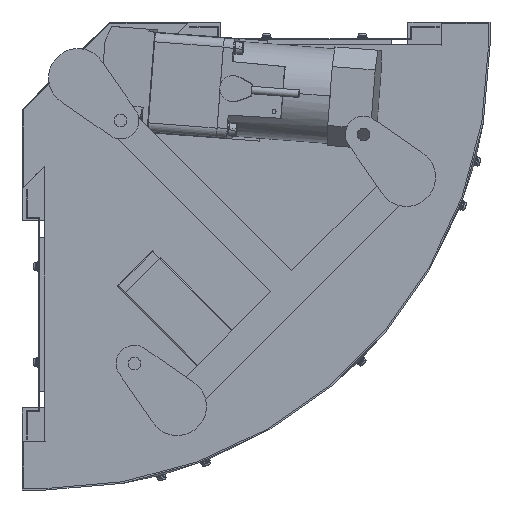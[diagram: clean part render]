
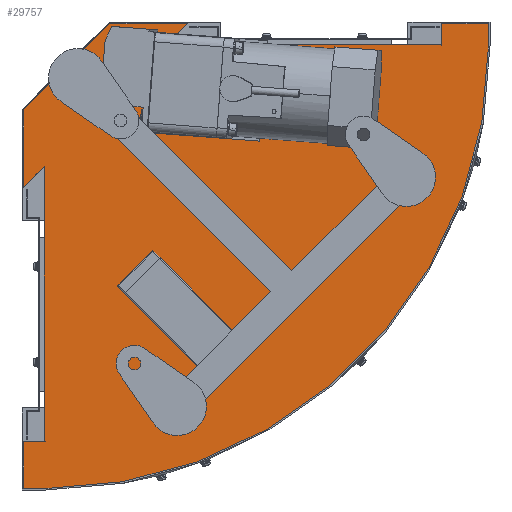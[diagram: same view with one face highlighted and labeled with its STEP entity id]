
A CAD part, front view. The second image highlights one B-rep face of the part: STEP entity #29757.
In plain terms, the highlighted planar face has unit normal (0, -1, 0).
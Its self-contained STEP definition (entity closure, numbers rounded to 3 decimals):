
#7 = CARTESIAN_POINT ( 'NONE',  ( -1.846, -145.7, -412.496 ) ) ;
#567 = CARTESIAN_POINT ( 'NONE',  ( -23.4, -145.7, -147.5 ) ) ;
#713 = DIRECTION ( 'NONE',  ( -1., 0., 0. ) ) ;
#767 = LINE ( 'NONE', #7, #2025 ) ;
#770 = VECTOR ( 'NONE', #10245, 1000. ) ;
#1230 = VERTEX_POINT ( 'NONE', #3411 ) ;
#1544 = ORIENTED_EDGE ( 'NONE', *, *, #30143, .T. ) ;
#1580 = CARTESIAN_POINT ( 'NONE',  ( -23.4, -145.7, -461.5 ) ) ;
#1757 = VERTEX_POINT ( 'NONE', #23831 ) ;
#1799 = LINE ( 'NONE', #16043, #15014 ) ;
#2025 = VECTOR ( 'NONE', #2638, 1000. ) ;
#2259 = CARTESIAN_POINT ( 'NONE',  ( 0., -145.7, -412.5 ) ) ;
#2383 = LINE ( 'NONE', #21553, #23150 ) ;
#2548 = ORIENTED_EDGE ( 'NONE', *, *, #8366, .T. ) ;
#2638 = DIRECTION ( 'NONE',  ( 0., 0., 1. ) ) ;
#2906 = EDGE_CURVE ( 'NONE', #1757, #1230, #7997, .T. ) ;
#3047 = CARTESIAN_POINT ( 'NONE',  ( 0., -145.7, 0. ) ) ;
#3239 = DIRECTION ( 'NONE',  ( 0., 1., 0. ) ) ;
#3411 = CARTESIAN_POINT ( 'NONE',  ( 412.496, -145.7, 1.846 ) ) ;
#3447 = CARTESIAN_POINT ( 'NONE',  ( -1.846, -145.7, -412.496 ) ) ;
#3502 = LINE ( 'NONE', #11124, #14304 ) ;
#3523 = VERTEX_POINT ( 'NONE', #12423 ) ;
#3636 = AXIS2_PLACEMENT_3D ( 'NONE', #15835, #7838, #17810 ) ;
#3978 = ORIENTED_EDGE ( 'NONE', *, *, #33009, .T. ) ;
#4351 = VERTEX_POINT ( 'NONE', #20836 ) ;
#4570 = EDGE_CURVE ( 'NONE', #11992, #4351, #16613, .T. ) ;
#4637 = ORIENTED_EDGE ( 'NONE', *, *, #33971, .T. ) ;
#6218 = DIRECTION ( 'NONE',  ( 0.707, 0., 0.707 ) ) ;
#6817 = EDGE_CURVE ( 'NONE', #34036, #22906, #13570, .T. ) ;
#6821 = VECTOR ( 'NONE', #6218, 1000. ) ;
#7418 = ORIENTED_EDGE ( 'NONE', *, *, #31573, .T. ) ;
#7450 = EDGE_LOOP ( 'NONE', ( #23795, #24819, #4637, #25392, #14882, #1544, #33201, #17709, #9595, #13693, #2548, #7418, #3978, #17025, #31961, #29561 ) ) ;
#7579 = CARTESIAN_POINT ( 'NONE',  ( 0., -145.7, 0. ) ) ;
#7838 = DIRECTION ( 'NONE',  ( 0., 1., 0. ) ) ;
#7997 = LINE ( 'NONE', #12887, #33369 ) ;
#8055 = VERTEX_POINT ( 'NONE', #27136 ) ;
#8366 = EDGE_CURVE ( 'NONE', #28481, #29558, #32369, .T. ) ;
#8389 = VECTOR ( 'NONE', #21830, 1000. ) ;
#8589 = AXIS2_PLACEMENT_3D ( 'NONE', #7579, #26177, #18360 ) ;
#8776 = CARTESIAN_POINT ( 'NONE',  ( -23.4, -145.7, -147.5 ) ) ;
#8827 = CARTESIAN_POINT ( 'NONE',  ( 0., -145.7, 0. ) ) ;
#9087 = CARTESIAN_POINT ( 'NONE',  ( 66.663, -145.7, 23.4 ) ) ;
#9595 = ORIENTED_EDGE ( 'NONE', *, *, #16166, .F. ) ;
#9701 = CARTESIAN_POINT ( 'NONE',  ( -23.4, -145.7, -412.5 ) ) ;
#10076 = EDGE_CURVE ( 'NONE', #27365, #28481, #14869, .T. ) ;
#10245 = DIRECTION ( 'NONE',  ( -1., 0., 0. ) ) ;
#10334 = DIRECTION ( 'NONE',  ( 1., 0., 0. ) ) ;
#10445 = CARTESIAN_POINT ( 'NONE',  ( 0., -145.7, -412.5 ) ) ;
#11124 = CARTESIAN_POINT ( 'NONE',  ( 147.5, -145.7, 23.4 ) ) ;
#11686 = EDGE_CURVE ( 'NONE', #3523, #30010, #3502, .T. ) ;
#11992 = VERTEX_POINT ( 'NONE', #23576 ) ;
#12423 = CARTESIAN_POINT ( 'NONE',  ( 147.5, -145.7, 23.4 ) ) ;
#12762 = VECTOR ( 'NONE', #27341, 1000. ) ;
#12887 = CARTESIAN_POINT ( 'NONE',  ( 125.898, -145.7, 1.798 ) ) ;
#13009 = CIRCLE ( 'NONE', #24089, 412.5 ) ;
#13570 = LINE ( 'NONE', #8776, #12762 ) ;
#13693 = ORIENTED_EDGE ( 'NONE', *, *, #10076, .T. ) ;
#13719 = DIRECTION ( 'NONE',  ( 0., 0., 1. ) ) ;
#14247 = EDGE_CURVE ( 'NONE', #33256, #11992, #2383, .T. ) ;
#14298 = VECTOR ( 'NONE', #31778, 1000. ) ;
#14304 = VECTOR ( 'NONE', #713, 1000. ) ;
#14387 = CARTESIAN_POINT ( 'NONE',  ( -23.4, -145.7, -461.5 ) ) ;
#14869 = LINE ( 'NONE', #2259, #770 ) ;
#14882 = ORIENTED_EDGE ( 'NONE', *, *, #21503, .T. ) ;
#15014 = VECTOR ( 'NONE', #16505, 1000. ) ;
#15046 = VERTEX_POINT ( 'NONE', #17670 ) ;
#15445 = LINE ( 'NONE', #14387, #8389 ) ;
#15710 = CARTESIAN_POINT ( 'NONE',  ( -1.798, -145.7, -125.898 ) ) ;
#15835 = CARTESIAN_POINT ( 'NONE',  ( 0., -145.7, 0. ) ) ;
#16043 = CARTESIAN_POINT ( 'NONE',  ( 461.5, -145.7, 0. ) ) ;
#16166 = EDGE_CURVE ( 'NONE', #27365, #26109, #13009, .T. ) ;
#16222 = CARTESIAN_POINT ( 'NONE',  ( -23.4, -145.7, -66.663 ) ) ;
#16481 = PLANE ( 'NONE',  #17832 ) ;
#16505 = DIRECTION ( 'NONE',  ( 0., 0., 1. ) ) ;
#16581 = VECTOR ( 'NONE', #26102, 1000. ) ;
#16613 = LINE ( 'NONE', #31749, #19130 ) ;
#17025 = ORIENTED_EDGE ( 'NONE', *, *, #17699, .T. ) ;
#17090 = DIRECTION ( 'NONE',  ( -0.707, 0., -0.707 ) ) ;
#17632 = LINE ( 'NONE', #567, #6821 ) ;
#17670 = CARTESIAN_POINT ( 'NONE',  ( -23.4, -145.7, -66.663 ) ) ;
#17699 = EDGE_CURVE ( 'NONE', #8055, #33256, #1799, .T. ) ;
#17709 = ORIENTED_EDGE ( 'NONE', *, *, #26512, .F. ) ;
#17810 = DIRECTION ( 'NONE',  ( 0., 0., 1. ) ) ;
#17832 = AXIS2_PLACEMENT_3D ( 'NONE', #8827, #3239, #27062 ) ;
#18360 = DIRECTION ( 'NONE',  ( 0., 0., 1. ) ) ;
#19130 = VECTOR ( 'NONE', #20968, 1000. ) ;
#19144 = CIRCLE ( 'NONE', #3636, 412.5 ) ;
#20836 = CARTESIAN_POINT ( 'NONE',  ( 412.5, -145.7, 0. ) ) ;
#20968 = DIRECTION ( 'NONE',  ( 0., 0., -1. ) ) ;
#21298 = CARTESIAN_POINT ( 'NONE',  ( 0., -145.7, -461.5 ) ) ;
#21355 = LINE ( 'NONE', #16222, #14298 ) ;
#21503 = EDGE_CURVE ( 'NONE', #30010, #15046, #29751, .T. ) ;
#21553 = CARTESIAN_POINT ( 'NONE',  ( 461.5, -145.7, 23.4 ) ) ;
#21825 = CARTESIAN_POINT ( 'NONE',  ( 461.5, -145.7, 23.4 ) ) ;
#21830 = DIRECTION ( 'NONE',  ( 1., 0., 0. ) ) ;
#22906 = VERTEX_POINT ( 'NONE', #15710 ) ;
#22924 = CIRCLE ( 'NONE', #8589, 461.5 ) ;
#23150 = VECTOR ( 'NONE', #26888, 1000. ) ;
#23576 = CARTESIAN_POINT ( 'NONE',  ( 412.5, -145.7, 23.4 ) ) ;
#23795 = ORIENTED_EDGE ( 'NONE', *, *, #32392, .F. ) ;
#23831 = CARTESIAN_POINT ( 'NONE',  ( 125.898, -145.7, 1.798 ) ) ;
#24089 = AXIS2_PLACEMENT_3D ( 'NONE', #3047, #29633, #13719 ) ;
#24819 = ORIENTED_EDGE ( 'NONE', *, *, #2906, .F. ) ;
#25003 = CARTESIAN_POINT ( 'NONE',  ( -23.4, -145.7, -412.5 ) ) ;
#25392 = ORIENTED_EDGE ( 'NONE', *, *, #11686, .T. ) ;
#26011 = FACE_OUTER_BOUND ( 'NONE', #7450, .T. ) ;
#26102 = DIRECTION ( 'NONE',  ( 0., 0., -1. ) ) ;
#26109 = VERTEX_POINT ( 'NONE', #3447 ) ;
#26177 = DIRECTION ( 'NONE',  ( 0., -1., 0. ) ) ;
#26512 = EDGE_CURVE ( 'NONE', #26109, #22906, #767, .T. ) ;
#26888 = DIRECTION ( 'NONE',  ( -1., 0., 0. ) ) ;
#27062 = DIRECTION ( 'NONE',  ( 0., 0., 1. ) ) ;
#27136 = CARTESIAN_POINT ( 'NONE',  ( 461.5, -145.7, 0. ) ) ;
#27341 = DIRECTION ( 'NONE',  ( 0.707, 0., 0.707 ) ) ;
#27365 = VERTEX_POINT ( 'NONE', #10445 ) ;
#27873 = VERTEX_POINT ( 'NONE', #21298 ) ;
#27917 = CARTESIAN_POINT ( 'NONE',  ( -23.4, -145.7, -147.5 ) ) ;
#28481 = VERTEX_POINT ( 'NONE', #25003 ) ;
#29558 = VERTEX_POINT ( 'NONE', #1580 ) ;
#29561 = ORIENTED_EDGE ( 'NONE', *, *, #4570, .T. ) ;
#29633 = DIRECTION ( 'NONE',  ( 0., 1., 0. ) ) ;
#29751 = LINE ( 'NONE', #9087, #30584 ) ;
#29757 = ADVANCED_FACE ( 'NONE', ( #26011 ), #16481, .F. ) ;
#30010 = VERTEX_POINT ( 'NONE', #31446 ) ;
#30143 = EDGE_CURVE ( 'NONE', #15046, #34036, #21355, .T. ) ;
#30584 = VECTOR ( 'NONE', #17090, 1000. ) ;
#31446 = CARTESIAN_POINT ( 'NONE',  ( 66.663, -145.7, 23.4 ) ) ;
#31573 = EDGE_CURVE ( 'NONE', #29558, #27873, #15445, .T. ) ;
#31749 = CARTESIAN_POINT ( 'NONE',  ( 412.5, -145.7, 23.4 ) ) ;
#31778 = DIRECTION ( 'NONE',  ( 0., 0., -1. ) ) ;
#31961 = ORIENTED_EDGE ( 'NONE', *, *, #14247, .T. ) ;
#32369 = LINE ( 'NONE', #9701, #16581 ) ;
#32392 = EDGE_CURVE ( 'NONE', #1230, #4351, #19144, .T. ) ;
#33009 = EDGE_CURVE ( 'NONE', #27873, #8055, #22924, .T. ) ;
#33201 = ORIENTED_EDGE ( 'NONE', *, *, #6817, .T. ) ;
#33256 = VERTEX_POINT ( 'NONE', #21825 ) ;
#33369 = VECTOR ( 'NONE', #10334, 1000. ) ;
#33971 = EDGE_CURVE ( 'NONE', #1757, #3523, #17632, .T. ) ;
#34036 = VERTEX_POINT ( 'NONE', #27917 ) ;
